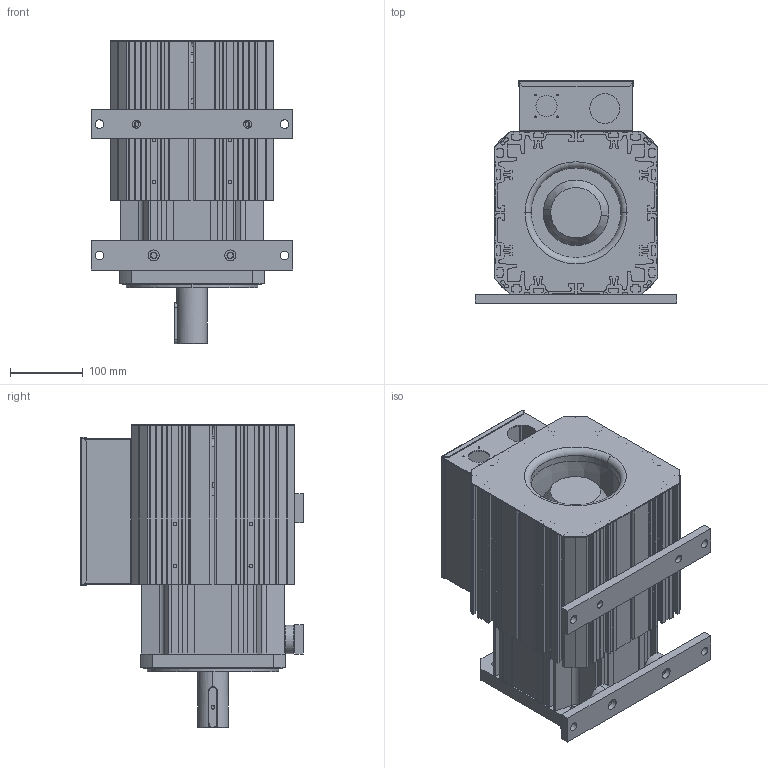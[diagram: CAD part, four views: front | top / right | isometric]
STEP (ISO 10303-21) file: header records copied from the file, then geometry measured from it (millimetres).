
FILE_DESCRIPTION (( 'STEP AP203' ), '1' );
FILE_NAME ('ZE1802.STEP', '2024-10-23T06:17:02', ( 'MicroSoft' ), ( 'MicroSoft' ), 'SwSTEP 2.0', 'SolidWorks 2020', '' );
FILE_SCHEMA (( 'CONFIG_CONTROL_DESIGN' ));
Length unit declared in the file: millimetre
Products named in the file (24): Z18-01-04A(18锥轴全系列)半开放键槽_1802; 25諉盄碟; GB／T276-94深沟球轴承6309-2Z; Z18-01-18(絳瑞啣C)_1802; Z18-01-23(18唅曹裔啣); 25諉盄碟爾諉2024.8.21; 18す瑩ㄗ12-8-56ㄘ; Z18-01-09(粣創嶺裔)_都寞; Z18-01-20(18盓殤菜輸); Z18-01-01(18儂褲)_1802; Z18-01-02(18前法兰); Z18-01-21(18綴結啣); Z18-01-03(18极胜后法兰)_常规款; Z18-01-17(絳瑞啣B)_1802; Z18-01-16(絳瑞啣A)_1802; 25諉盄碟 裔; GB╱T 276-2013[深沟球轴承[60000]6306]; ZE1802; Z18-01-14(萇儂菁褐盓殤-1); Z18-01-19(絳瑞啣D)_1802; 18风扇-175FLW-3 380V（3080103010006）; Z18-01-15(萇儂菁褐盓殤-2); 25端子固定片2024.8.21; Z18-01-25(18机壳护线圈)
Assembly tree (28 placements, depth 3):
  ZE1802
    Z18-01-01(18儂褲)_1802
    Z18-01-02(18前法兰)
    Z18-01-03(18极胜后法兰)_常规款
    Z18-01-04A(18锥轴全系列)半开放键槽_1802
    Z18-01-09(粣創嶺裔)_都寞
    Z18-01-14(萇儂菁褐盓殤-1)
    Z18-01-15(萇儂菁褐盓殤-2)
    Z18-01-20(18盓殤菜輸)  x2
    Z18-01-21(18綴結啣)
    GB／T276-94深沟球轴承6309-2Z
    GB╱T 276-2013[深沟球轴承[60000]6306]
    18す瑩ㄗ12-8-56ㄘ
    18风扇-175FLW-3 380V（3080103010006）
    Z18-01-23(18唅曹裔啣)
    Z18-01-25(18机壳护线圈)
    Z18-01-16(絳瑞啣A)_1802
    Z18-01-17(絳瑞啣B)_1802
    Z18-01-18(絳瑞啣C)_1802  x3
    Z18-01-19(絳瑞啣D)_1802  x3
    25諉盄碟爾諉2024.8.21
      25諉盄碟
      25端子固定片2024.8.21
      25諉盄碟 裔
Bounding box: 277 x 305.5 x 416 mm (x, y, z)
Volume: 6350794.9 mm3; surface area: 2027243.3 mm2
Topology: 40 solids, 40 shells, 2982 faces, 8331 edges, 5326 vertices
Faces by surface type: cylinder 1274, plane 1154, cone 241, sphere 173, torus 88, bspline 52
Entity records: 87181 total; most frequent: CARTESIAN_POINT 25730, ORIENTED_EDGE 12426, DIRECTION 12426, EDGE_CURVE 6213, AXIS2_PLACEMENT_3D 4727, VERTEX_POINT 4008, VECTOR 2972, LINE 2972
